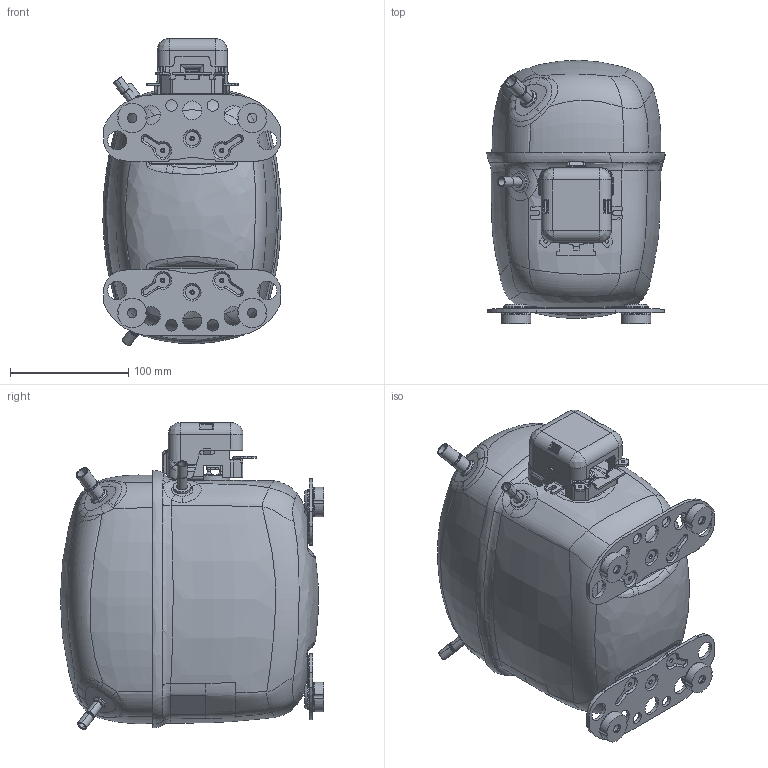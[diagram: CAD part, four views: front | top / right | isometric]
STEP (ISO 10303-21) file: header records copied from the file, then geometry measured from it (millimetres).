
FILE_DESCRIPTION((''),'2;1');
FILE_NAME('104B1275_104B0084_NONE_ASM','2018-11-15T',('CN6198'),(''),'CREO PARAMETRIC BY PTC INC, 2015380','CREO PARAMETRIC BY PTC INC, 2015380','');
FILE_SCHEMA(('CONFIG_CONTROL_DESIGN'));
Products named in the file (24): 104B1404_DES; 104B0321; 104B0504; 60-35175_1; 12-60705_GLASS_1; 12-60705_GLASS-OA0_1; 12-60705_GLASS-OA1_1; 50-41378_1; 60-41459_1; ASSEM1_1_ASM; 117-3629_ASM; 103N0510; 104B0673; 104B0635; 104B0677_BENT; 104B0687_BENT_ASM; 104B1275_ASM; 104B0605; 104B0684; 104B0682; 104B0084_ASM; 103N2008; 118-3661; 104B1275_104B0084_NONE_ASM
Assembly tree (29 placements, depth 5):
  104B1275_104B0084_NONE_ASM
    104B1275_ASM
      104B1404_DES
      104B0321  x2
      104B0504
      117-3629_ASM
        ASSEM1_1_ASM
          60-35175_1  x3
          12-60705_GLASS_1
          12-60705_GLASS-OA0_1
          12-60705_GLASS-OA1_1
          50-41378_1
          60-41459_1
      103N0510
      104B0687_BENT_ASM
        104B0673
        104B0635
        104B0677_BENT
    104B0084_ASM
      104B0605
      104B0684
      104B0682
    103N2008
    118-3661  x4
Bounding box: 150.83 x 222.82 x 259.69 mm (x, y, z)
Volume: 538841.5 mm3; surface area: 386044.5 mm2
Topology: 24 solids, 24 shells, 1874 faces, 4815 edges, 2990 vertices
Faces by surface type: plane 525, bspline 463, cylinder 420, torus 210, cone 183, sphere 48, extrusion 13, revolution 12
Entity records: 136316 total; most frequent: CARTESIAN_POINT 98667, ORIENTED_EDGE 8482, DIRECTION 6701, EDGE_CURVE 4241, VERTEX_POINT 2665, AXIS2_PLACEMENT_3D 2517, EDGE_LOOP 1742, VECTOR 1655
